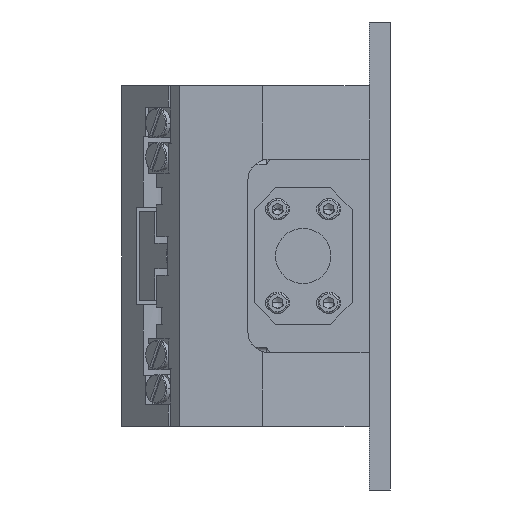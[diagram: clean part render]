
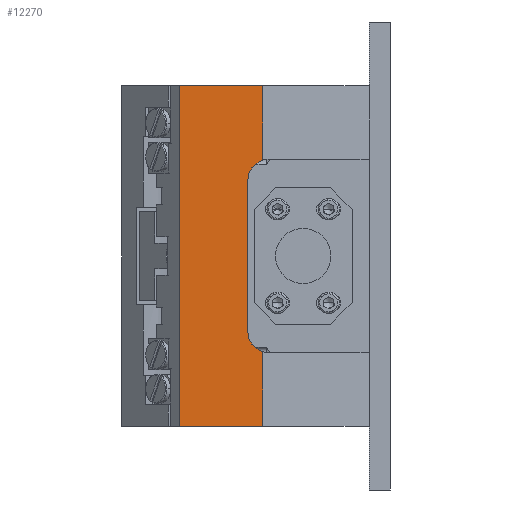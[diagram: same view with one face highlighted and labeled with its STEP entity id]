
A CAD part, left-side view. The second image highlights one B-rep face of the part: STEP entity #12270.
In plain terms, the highlighted planar face has unit normal (1, 0, 0).
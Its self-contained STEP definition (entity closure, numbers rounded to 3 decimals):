
#6659 = FACE_OUTER_BOUND ( 'NONE', #31074, .T. ) ;
#8859 = VERTEX_POINT ( 'NONE', #42224 ) ;
#8861 = VERTEX_POINT ( 'NONE', #42222 ) ;
#9126 = VERTEX_POINT ( 'NONE', #42636 ) ;
#9137 = VERTEX_POINT ( 'NONE', #42648 ) ;
#9165 = VERTEX_POINT ( 'NONE', #42681 ) ;
#9508 = VERTEX_POINT ( 'NONE', #43254 ) ;
#9557 = VERTEX_POINT ( 'NONE', #43368 ) ;
#9571 = VERTEX_POINT ( 'NONE', #43391 ) ;
#10056 = AXIS2_PLACEMENT_3D ( 'NONE', #10720, #10897, #10926 ) ;
#10057 = AXIS2_PLACEMENT_3D ( 'NONE', #10935, #10844, #10893 ) ;
#10720 = CARTESIAN_POINT ( 'NONE',  ( -150., -53., -35.5 ) ) ;
#10724 = CARTESIAN_POINT ( 'NONE',  ( -150., -11., 80. ) ) ;
#10733 = DIRECTION ( 'NONE',  ( 0., -1., 0. ) ) ;
#10738 = CARTESIAN_POINT ( 'NONE',  ( -150., -100., -80. ) ) ;
#10755 = DIRECTION ( 'NONE',  ( 0., 0., 1. ) ) ;
#10759 = CARTESIAN_POINT ( 'NONE',  ( -150., -50., -80. ) ) ;
#10844 = DIRECTION ( 'NONE',  ( -1., 0., 0. ) ) ;
#10893 = DIRECTION ( 'NONE',  ( 0., 0., -1. ) ) ;
#10897 = DIRECTION ( 'NONE',  ( -1., 0., 0. ) ) ;
#10926 = DIRECTION ( 'NONE',  ( 0., 0., -1. ) ) ;
#10930 = DIRECTION ( 'NONE',  ( 0., 0., 1. ) ) ;
#10935 = CARTESIAN_POINT ( 'NONE',  ( -150., -53., 35.5 ) ) ;
#10979 = CARTESIAN_POINT ( 'NONE',  ( -150., -43., 80. ) ) ;
#10992 = DIRECTION ( 'NONE',  ( 0., 0., -1. ) ) ;
#11455 = CIRCLE ( 'NONE', #10057, 10. ) ;
#11464 = VECTOR ( 'NONE', #10992, 1000. ) ;
#11470 = VECTOR ( 'NONE', #10733, 1000. ) ;
#11506 = LINE ( 'NONE', #10724, #11541 ) ;
#11530 = LINE ( 'NONE', #10979, #11464 ) ;
#11541 = VECTOR ( 'NONE', #10930, 1000. ) ;
#11542 = CIRCLE ( 'NONE', #10056, 10. ) ;
#12270 = ADVANCED_FACE ( 'NONE', ( #6659 ), #44000, .T. ) ;
#21196 = EDGE_CURVE ( 'NONE', #9557, #9137, #32635, .T. ) ;
#21204 = EDGE_CURVE ( 'NONE', #8859, #9137, #32641, .T. ) ;
#21307 = EDGE_CURVE ( 'NONE', #9126, #8861, #32560, .T. ) ;
#21317 = EDGE_CURVE ( 'NONE', #9508, #9126, #46616, .T. ) ;
#21325 = EDGE_CURVE ( 'NONE', #9508, #8859, #11506, .T. ) ;
#21328 = EDGE_CURVE ( 'NONE', #9165, #8861, #11542, .T. ) ;
#21330 = EDGE_CURVE ( 'NONE', #9557, #9571, #11455, .T. ) ;
#21332 = EDGE_CURVE ( 'NONE', #9571, #9165, #11530, .T. ) ;
#22862 = DIRECTION ( 'NONE',  ( 0., -1., 0. ) ) ;
#22865 = CARTESIAN_POINT ( 'NONE',  ( -150., -100., 80. ) ) ;
#22933 = DIRECTION ( 'NONE',  ( 0., 0., 1. ) ) ;
#22940 = CARTESIAN_POINT ( 'NONE',  ( -150., -50., -80. ) ) ;
#23203 = AXIS2_PLACEMENT_3D ( 'NONE', #44001, #44011, #44009 ) ;
#29006 = ORIENTED_EDGE ( 'NONE', *, *, #21317, .F. ) ;
#29342 = ORIENTED_EDGE ( 'NONE', *, *, #21325, .T. ) ;
#29362 = ORIENTED_EDGE ( 'NONE', *, *, #21332, .T. ) ;
#29366 = ORIENTED_EDGE ( 'NONE', *, *, #21307, .F. ) ;
#29374 = ORIENTED_EDGE ( 'NONE', *, *, #21330, .T. ) ;
#29380 = ORIENTED_EDGE ( 'NONE', *, *, #21328, .T. ) ;
#29608 = ORIENTED_EDGE ( 'NONE', *, *, #21196, .F. ) ;
#29622 = ORIENTED_EDGE ( 'NONE', *, *, #21204, .T. ) ;
#31074 = EDGE_LOOP ( 'NONE', ( #29342, #29622, #29608, #29374, #29362, #29380, #29366, #29006 ) ) ;
#32560 = LINE ( 'NONE', #10759, #32573 ) ;
#32573 = VECTOR ( 'NONE', #10755, 1000. ) ;
#32615 = VECTOR ( 'NONE', #22862, 1000. ) ;
#32635 = LINE ( 'NONE', #22940, #32755 ) ;
#32641 = LINE ( 'NONE', #22865, #32615 ) ;
#32755 = VECTOR ( 'NONE', #22933, 1000. ) ;
#42222 = CARTESIAN_POINT ( 'NONE',  ( -150., -50., -45.039 ) ) ;
#42224 = CARTESIAN_POINT ( 'NONE',  ( -150., -11., 80. ) ) ;
#42636 = CARTESIAN_POINT ( 'NONE',  ( -150., -50., -80. ) ) ;
#42648 = CARTESIAN_POINT ( 'NONE',  ( -150., -50., 80. ) ) ;
#42681 = CARTESIAN_POINT ( 'NONE',  ( -150., -43., -35.5 ) ) ;
#43254 = CARTESIAN_POINT ( 'NONE',  ( -150., -11., -80. ) ) ;
#43368 = CARTESIAN_POINT ( 'NONE',  ( -150., -50., 45.039 ) ) ;
#43391 = CARTESIAN_POINT ( 'NONE',  ( -150., -43., 35.5 ) ) ;
#44000 = PLANE ( 'NONE',  #23203 ) ;
#44001 = CARTESIAN_POINT ( 'NONE',  ( -150., 0., 80. ) ) ;
#44009 = DIRECTION ( 'NONE',  ( 0., 1., 0. ) ) ;
#44011 = DIRECTION ( 'NONE',  ( 1., 0., 0. ) ) ;
#46616 = LINE ( 'NONE', #10738, #11470 ) ;
